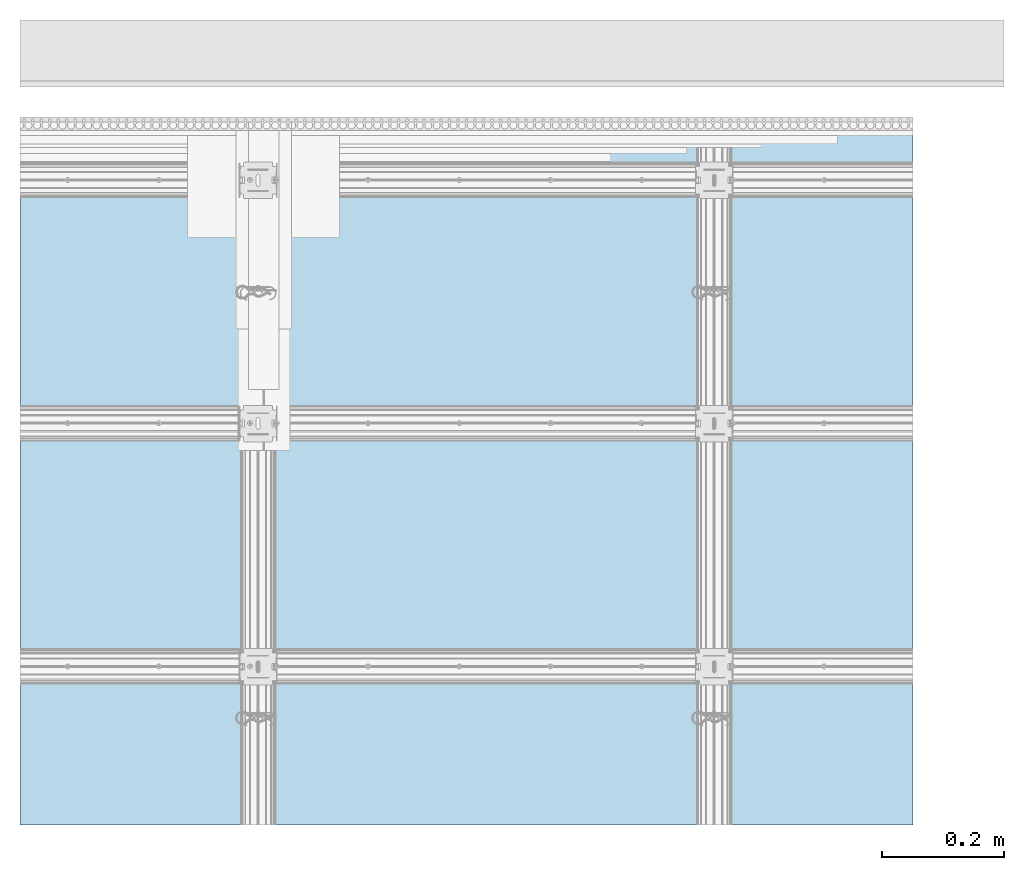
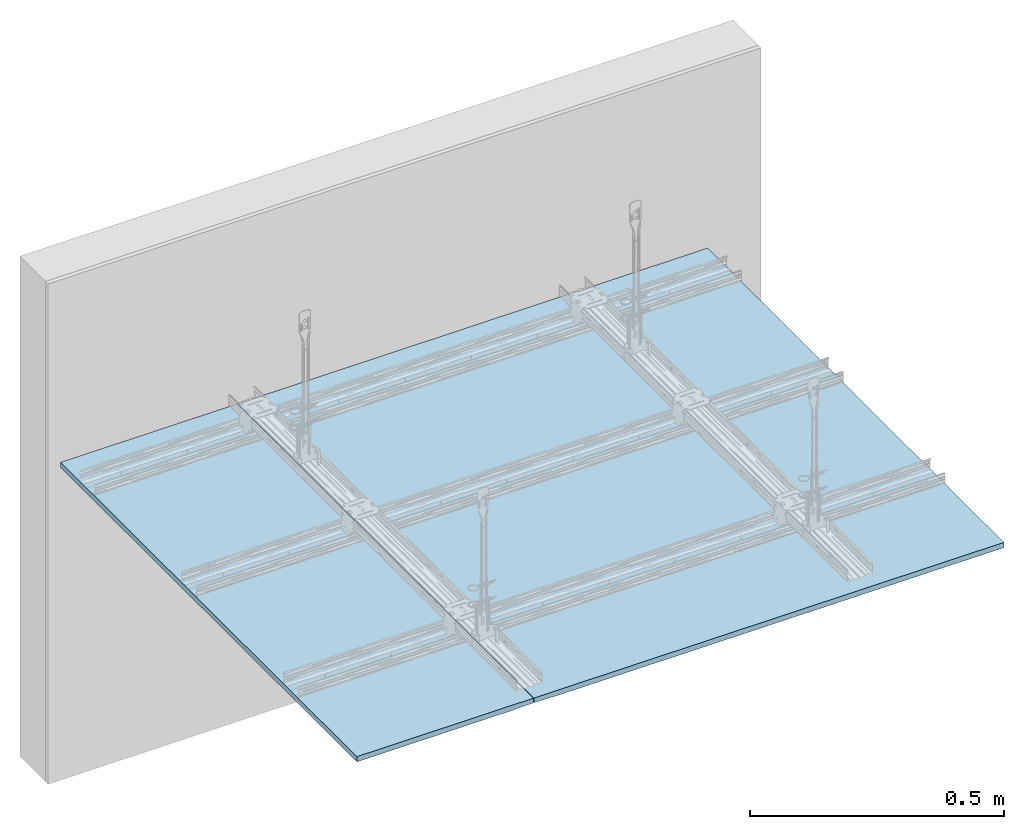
# One storey, part 1 of 34: 2 slabs.
"""IFC2X3 building model written with IfcOpenShell, lengths in millimetres."""

from ifc_helpers import new_model, entity, si_unit, converted_unit, direction, frame, origin, origin_with_axes, place, context, project, spatial, faceted_brep, element, save


model = new_model("IFC2X3")

# Units and contexts
model_context = context("Model", 3, precision=1e-05, world=origin(), true_north=direction((0.0, 1.0, 0.0)))
ifc_project = project(units=[si_unit("LENGTHUNIT", "METRE", prefix="MILLI"), si_unit("AREAUNIT", "SQUARE_METRE"), si_unit("VOLUMEUNIT", "CUBIC_METRE"), converted_unit("PLANEANGLEUNIT", "DEGREE", entity("IfcPlaneAngleMeasure", 0.01745), si_unit("PLANEANGLEUNIT", "RADIAN"), dimensions=[0, 0, 0, 0, 0, 0, 0]), si_unit("SOLIDANGLEUNIT", "STERADIAN"), si_unit("MASSUNIT", "GRAM"), si_unit("TIMEUNIT", "SECOND"), si_unit("THERMODYNAMICTEMPERATUREUNIT", "DEGREE_CELSIUS"), si_unit("LUMINOUSINTENSITYUNIT", "LUMEN")], contexts=[model_context])

# Site, building, storey
site_placement = place(None, origin_with_axes())
site = spatial("IfcSite", under=ifc_project, at=site_placement, Name="Default Site", CompositionType="ELEMENT")
building_placement = place(site_placement, origin_with_axes())
building = spatial("IfcBuilding", under=site, at=building_placement, Name="Default Building", CompositionType="ELEMENT")
storey_placement = place(building_placement, origin_with_axes())
storey = spatial("IfcBuildingStorey", under=building, at=storey_placement, Name="Default Building Storey", CompositionType="ELEMENT", Elevation=0.0)

# Slabs
slab_1_placement = place(storey_placement, frame((2525.439347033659, 814.764103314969, 993.785217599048), z_axis=(-6.72623262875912e-44, -1.0, 3.330669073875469e-16), x_axis=(-1.0, 2.128075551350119e-28, 6.389333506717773e-13)))
element("IfcSlab", 1, at=slab_1_placement, inside=storey, Name="Płyta gipsowo-kartonowa RIGIPS PRO (4PRO™)", context=model_context, shape_type="Brep", body=[
    faceted_brep([(400.4142135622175, 12.49999999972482, -3.57681942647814), (400.4142135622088, -2.474351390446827e-10, -3.57681942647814), (400.4142135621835, -2.62053845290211e-10, -1167.762426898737), (400.4142135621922, 12.4999999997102, -1167.762426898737), (44.9999999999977, 12.50000000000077, -3.57681942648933), (40.9999999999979, 11.50000000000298, -3.57681942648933), (0.9999999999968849, 11.50000000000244, -3.57681942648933), (0.7411809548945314, 11.46592582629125, -3.57681942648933), (0.4999999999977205, 11.36602540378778, -3.57681942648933), (0.29289321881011, 11.20710678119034, -3.57681942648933), (0.1339745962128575, 11.00000000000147, -3.57681942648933), (0.03407417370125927, 10.75881904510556, -3.57681942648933), (-1.082867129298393e-12, 10.50000000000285, -3.57681942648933), (0.0, -5.414335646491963e-13, -3.57681942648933), (44.9999999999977, 12.49999999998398, -1167.762426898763), (40.9999999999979, 11.49999999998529, -1167.762426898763), (0.9999999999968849, 11.49999999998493, -1167.762426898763), (0.7411809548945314, 11.46592582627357, -1167.762426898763), (0.4999999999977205, 11.36602540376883, -1167.762426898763), (0.29289321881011, 11.20710678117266, -1167.762426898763), (0.1339745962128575, 10.99999999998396, -1167.762426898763), (0.03407417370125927, 10.75881904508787, -1167.762426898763), (-1.082867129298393e-12, 10.4999999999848, -1167.762426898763), (0.0, -1.858921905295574e-11, -1167.762426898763)], [[[0, 1, 2, 3]], [[0, 4, 5, 6, 7, 8, 9, 10, 11, 12, 13, 1]], [[3, 14, 4, 0]], [[5, 4, 14, 15]], [[6, 5, 15, 16]], [[7, 6, 16, 17]], [[8, 7, 17, 18]], [[9, 8, 18, 19]], [[10, 9, 19, 20]], [[11, 10, 20, 21]], [[12, 11, 21, 22]], [[13, 12, 22, 23]], [[2, 1, 13, 23]], [[14, 3, 2, 23, 22, 21, 20, 19, 18, 17, 16, 15]]]),
])
slab_2_placement = place(storey_placement, frame((2526.439347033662, 814.764103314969, 993.7852175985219), z_axis=(-3.36311631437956e-44, -1.0, 3.330669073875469e-16), x_axis=(1.0, -2.12807555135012e-28, -6.389333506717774e-13)))
element("IfcSlab", 2, at=slab_2_placement, inside=storey, Name="Płyta gipsowo-kartonowa RIGIPS PRO (4PRO™)", context=model_context, shape_type="Brep", body=[
    faceted_brep([(1066.601271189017, 7.47358797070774e-10, -3.576819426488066), (1066.601271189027, -12.49999999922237, -3.576819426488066), (44.99999999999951, -12.50000000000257, -3.576819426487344), (41.00000000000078, -11.50000000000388, -3.576819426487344), (0.9999999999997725, -11.50000000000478, -3.576819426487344), (0.741180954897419, -11.46592582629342, -3.576819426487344), (0.4999999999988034, -11.36602540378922, -3.576819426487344), (0.2928932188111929, -11.20710678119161, -3.576819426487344), (0.1339745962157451, -11.00000000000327, -3.576819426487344), (0.03407417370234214, -10.75881904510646, -3.576819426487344), (-3.248601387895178e-12, -10.50000000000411, -3.576819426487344), (1.082867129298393e-12, -7.219114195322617e-13, -3.576819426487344), (1066.601271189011, -12.49999999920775, -1167.762426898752), (44.99999999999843, -12.49999999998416, -1167.762426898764), (1066.601271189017, 7.47539274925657e-10, -683.5768194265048), (1066.601271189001, 7.645041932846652e-10, -1167.762426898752), (40.9999999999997, -11.49999999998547, -1167.762426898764), (0.9999999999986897, -11.49999999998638, -1167.762426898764), (0.7411809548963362, -11.46592582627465, -1167.762426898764), (0.4999999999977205, -11.36602540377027, -1167.762426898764), (0.29289321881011, -11.20710678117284, -1167.762426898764), (0.1339745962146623, -10.99999999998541, -1167.762426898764), (0.03407417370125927, -10.75881904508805, -1167.762426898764), (-4.33146851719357e-12, -10.49999999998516, -1167.762426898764), (0.0, 1.822826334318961e-11, -1167.762426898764)], [[[0, 1, 2, 3, 4, 5, 6, 7, 8, 9, 10, 11]], [[1, 12, 13, 2]], [[14, 15, 12, 1, 0]], [[2, 13, 16, 3]], [[3, 16, 17, 4]], [[4, 17, 18, 5]], [[5, 18, 19, 6]], [[6, 19, 20, 7]], [[7, 20, 21, 8]], [[8, 21, 22, 9]], [[9, 22, 23, 10]], [[10, 23, 24, 11]], [[0, 11, 24, 15, 14]], [[13, 12, 15, 24, 23, 22, 21, 20, 19, 18, 17, 16]]]),
])

save(model, "model.ifc")
